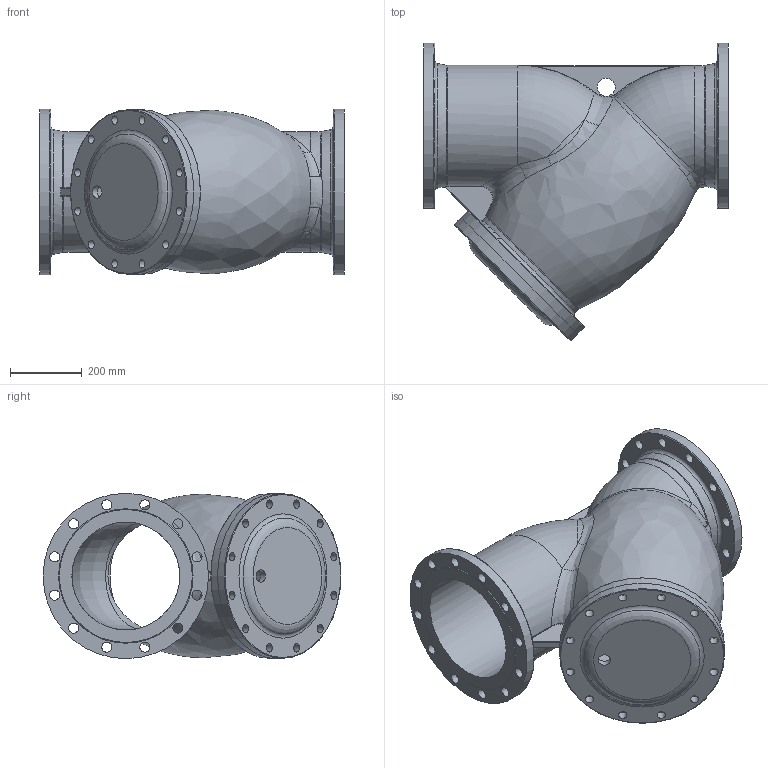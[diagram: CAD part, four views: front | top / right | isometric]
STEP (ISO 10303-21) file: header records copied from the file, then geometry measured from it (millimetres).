
FILE_DESCRIPTION(/* description */ ('STEP AP203'),/* implementation_level */ '2;1');
FILE_NAME(/* name */ '',/* time_stamp */ '2024-12-10T11:49:45+07:00',/* author */ ('Eva'),/* organization */ (''),/* preprocessor_version */ 'ST-DEVELOPER v20',/* originating_system */ 'Autodesk Inventor 2025',/* authorisation */ '');
FILE_SCHEMA (('AUTOMOTIVE_DESIGN { 1 0 10303 214 3 1 1 }'));
Length unit declared in the file: metre
Products named in the file (4): 德标过滤器300装配体1; 德标过滤器300装配体1(2
); 300阀体; 300阀盖
Assembly tree (3 placements, depth 3):
  德标过滤器300装配体1
    德标过滤器300装配体1(2
)
      300阀体
      300阀盖
Bounding box: 850 x 828.09 x 460 mm (x, y, z)
Volume: 33059677.8 mm3; surface area: 3410588.5 mm2
Topology: 2 solids, 2 shells, 168 faces, 415 edges, 259 vertices
Faces by surface type: cylinder 74, bspline 41, plane 23, torus 21, cone 9
Full cylindrical faces by diameter (mm): 23 x24, 28 x24, 35 x1, 50 x1, 300 x4, 319 x2, 458 x2, 460 x2
Entity records: 12978 total; most frequent: CARTESIAN_POINT 8808, ORIENTED_EDGE 826, DIRECTION 826, EDGE_CURVE 413, AXIS2_PLACEMENT_3D 369, EDGE_LOOP 282, VERTEX_POINT 259, CIRCLE 232
